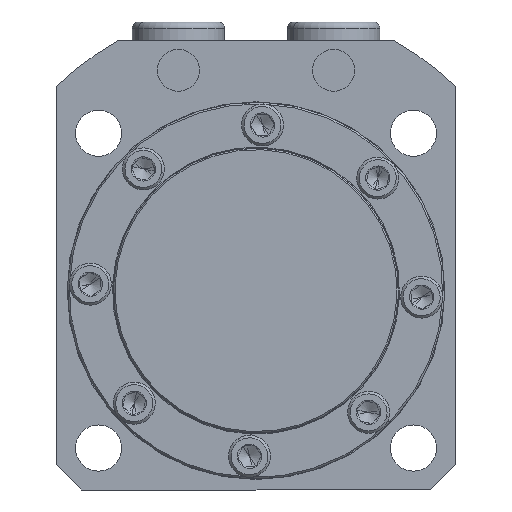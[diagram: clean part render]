
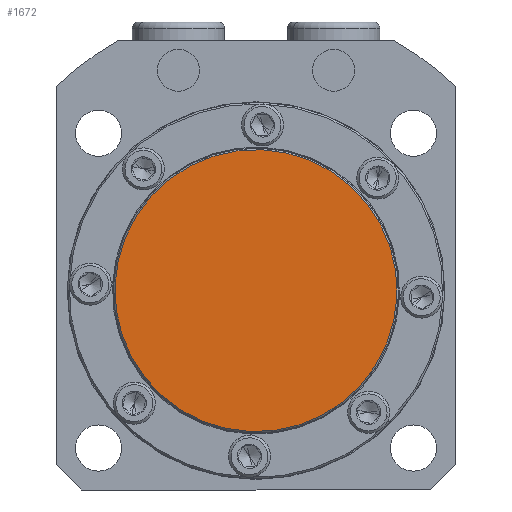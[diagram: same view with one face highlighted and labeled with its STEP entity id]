
A CAD part, front view. The second image highlights one B-rep face of the part: STEP entity #1672.
In plain terms, the highlighted planar face has unit normal (0, -1, 0).
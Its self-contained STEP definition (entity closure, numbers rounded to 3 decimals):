
#682 = CIRCLE ( 'NONE', #713, 33.6 ) ;
#713 = AXIS2_PLACEMENT_3D ( 'NONE', #2224, #2225, #2226 ) ;
#737 = CIRCLE ( 'NONE', #740, 33.6 ) ;
#740 = AXIS2_PLACEMENT_3D ( 'NONE', #2269, #2270, #2271 ) ;
#1672 = ADVANCED_FACE ( 'NONE', ( #5483 ), #5484, .T. ) ;
#1728 = AXIS2_PLACEMENT_3D ( 'NONE', #5475, #5487, #5488 ) ;
#2224 = CARTESIAN_POINT ( 'NONE',  ( 0., -13., 0. ) ) ;
#2225 = DIRECTION ( 'NONE',  ( 0., -1., 0. ) ) ;
#2226 = DIRECTION ( 'NONE',  ( 0., 0., -1. ) ) ;
#2269 = CARTESIAN_POINT ( 'NONE',  ( 0., -13., 0. ) ) ;
#2270 = DIRECTION ( 'NONE',  ( 0., -1., 0. ) ) ;
#2271 = DIRECTION ( 'NONE',  ( 0., 0., -1. ) ) ;
#2515 = CARTESIAN_POINT ( 'NONE',  ( 0., -13., 33.6 ) ) ;
#2557 = CARTESIAN_POINT ( 'NONE',  ( 0., -13., -33.6 ) ) ;
#3809 = EDGE_CURVE ( 'NONE', #4701, #4659, #682, .T. ) ;
#3824 = EDGE_CURVE ( 'NONE', #4659, #4701, #737, .T. ) ;
#4568 = EDGE_LOOP ( 'NONE', ( #5186, #5187 ) ) ;
#4659 = VERTEX_POINT ( 'NONE', #2515 ) ;
#4701 = VERTEX_POINT ( 'NONE', #2557 ) ;
#5186 = ORIENTED_EDGE ( 'NONE', *, *, #3824, .T. ) ;
#5187 = ORIENTED_EDGE ( 'NONE', *, *, #3809, .T. ) ;
#5475 = CARTESIAN_POINT ( 'NONE',  ( 0., -13., 0. ) ) ;
#5483 = FACE_OUTER_BOUND ( 'NONE', #4568, .T. ) ;
#5484 = PLANE ( 'NONE',  #1728 ) ;
#5487 = DIRECTION ( 'NONE',  ( 0., -1., 0. ) ) ;
#5488 = DIRECTION ( 'NONE',  ( 0., 0., -1. ) ) ;
